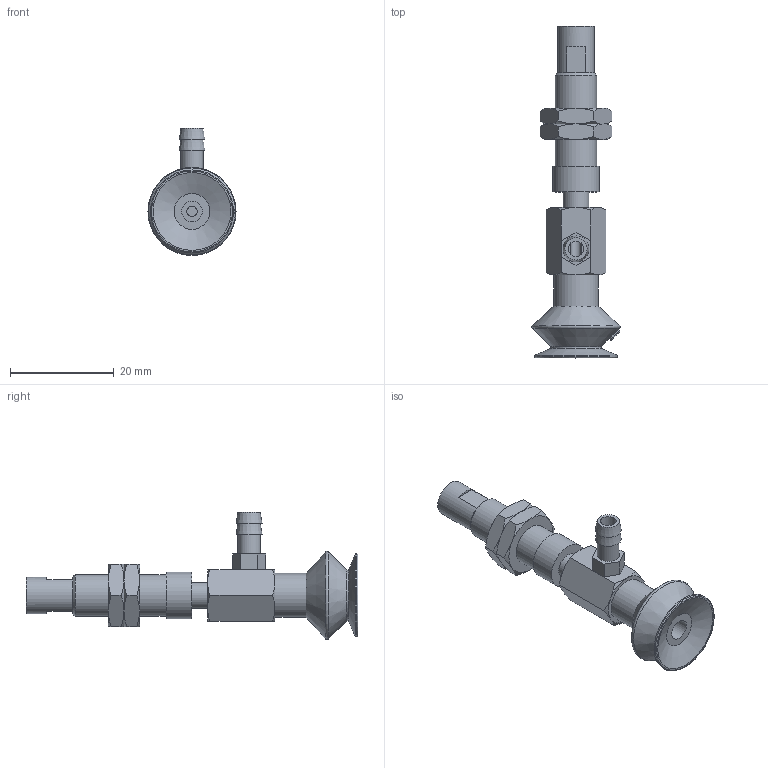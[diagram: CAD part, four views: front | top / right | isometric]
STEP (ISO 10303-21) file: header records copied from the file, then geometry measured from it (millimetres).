
FILE_DESCRIPTION(('STEP AP203'),'1');
FILE_NAME('-T.stp','2025-04-01T08:40:43',(' '),(' '),'Spatial InterOp 3D',' ',' ');
FILE_SCHEMA(('CONFIG_CONTROL_DESIGN'));
Length unit declared in the file: millimetre
Products named in the file (9): BNABPBYS-15A-3-※-T; CONNECTOR-15A-3-PB; Nut-15A-S-PB; NAPBTS-15A-3--F; NAPBTS-15A-3--M; BPBG-15A-※; __27; BPBG-15A; T
Assembly tree (9 placements, depth 3):
  BNABPBYS-15A-3-※-T
    CONNECTOR-15A-3-PB
    Nut-15A-S-PB  x2
    NAPBTS-15A-3--F
    NAPBTS-15A-3--M
    BPBG-15A-※
      __27
      BPBG-15A
    T
Bounding box: 17 x 64 x 24.5 mm (x, y, z)
Volume: 4653.7 mm3; surface area: 5228.7 mm2
Topology: 8 solids, 8 shells, 162 faces, 343 edges, 211 vertices
Faces by surface type: plane 64, cone 58, cylinder 21, torus 11, bspline 8
Full cylindrical faces by diameter (mm): 2 x1, 3 x1, 4 x3, 4.134 x2, 4.3 x1, 5 x4, 6 x2, 7 x1, 7.188 x2, 8 x1, 8.5 x1, 9 x1, 16 x1
Entity records: 5207 total; most frequent: CARTESIAN_POINT 2086, DIRECTION 549, ORIENTED_EDGE 472, AXIS2_PLACEMENT_3D 242, EDGE_CURVE 236, EDGE_LOOP 211, VERTEX_POINT 171, FACE_OUTER_BOUND 170
